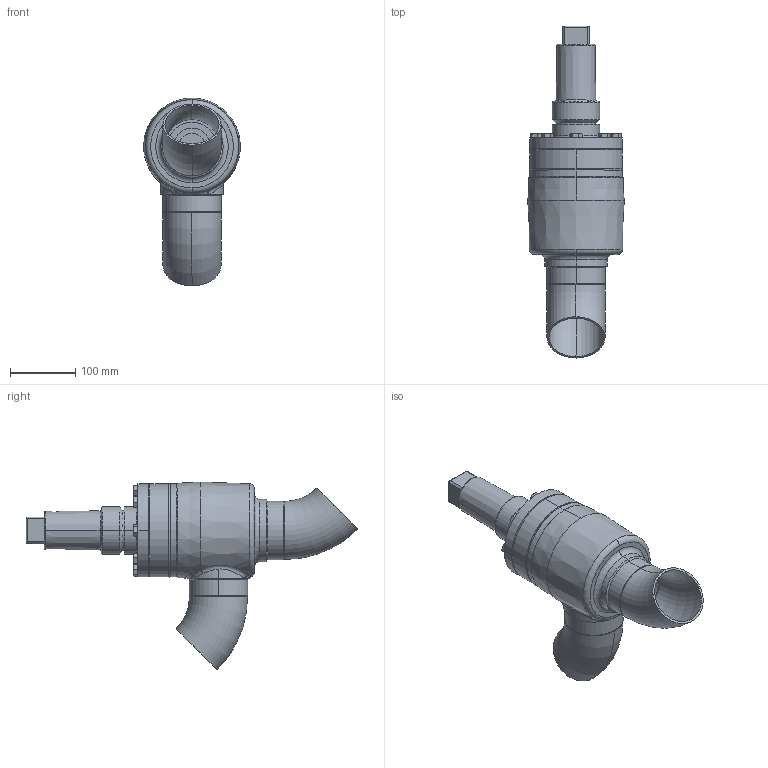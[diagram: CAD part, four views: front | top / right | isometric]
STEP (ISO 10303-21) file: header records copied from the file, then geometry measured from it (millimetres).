
FILE_DESCRIPTION (( 'STEP AP214' ), '1' );
FILE_NAME ('AVR26300D18-DN080_R1_PS40.STEP', '2007-01-08T07:16:45', ( 'Herr Grams' ), ( 'AWP GmbH' ), 'SwSTEP 2.0', 'SolidWorks 2002296', '' );
FILE_SCHEMA (( 'AUTOMOTIVE_DESIGN' ));
Length unit declared in the file: millimetre
Products named in the file (13): AVR26300D18-DN080_R1_PS40; Gehäuse-kpl16300-DN080_R1_Standard; Gehäuse-kpl16400-DN080_R1_Standard; Kopfstück16300-DN080_Standard; Gehäuse16400-DN080_Standard; bead-DN080-1_Standard; Rohrbogen 45°_Rohrbogen-DN080-45°; bead-DN080-3_Standard; bead-DN080-2_Standard; AVR26300E18_Deck+Schr-DN80_Standard; Deckel26300E18-DN80_Standard; Sechskantschraube-DIN933_M10x 30; Kappe16402_DN080-100_Standard
Assembly tree (20 placements, depth 4):
  AVR26300D18-DN080_R1_PS40
    Kappe16402_DN080-100_Standard
    Gehäuse-kpl16300-DN080_R1_Standard
      Rohrbogen 45°_Rohrbogen-DN080-45°  x2
      bead-DN080-2_Standard
      Gehäuse-kpl16400-DN080_R1_Standard
        Gehäuse16400-DN080_Standard
        Kopfstück16300-DN080_Standard
        bead-DN080-1_Standard
      bead-DN080-3_Standard
    AVR26300E18_Deck+Schr-DN80_Standard
      Sechskantschraube-DIN933_M10x 30  x8
      Deckel26300E18-DN80_Standard
Bounding box: 147.49 x 507.04 x 286.93 mm (x, y, z)
Volume: 2098716.5 mm3; surface area: 455959.2 mm2
Topology: 17 solids, 17 shells, 381 faces, 814 edges, 491 vertices
Faces by surface type: cone 133, plane 112, cylinder 96, torus 20, bspline 20
Entity records: 18327 total; most frequent: CARTESIAN_POINT 13040, DIRECTION 977, ORIENTED_EDGE 876, EDGE_CURVE 438, AXIS2_PLACEMENT_3D 429, VERTEX_POINT 273, EDGE_LOOP 247, CIRCLE 223
